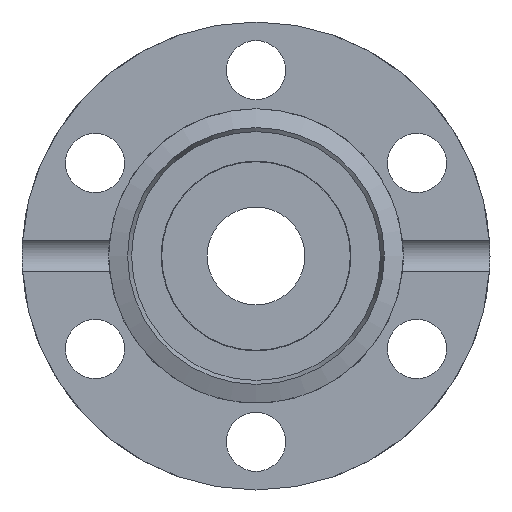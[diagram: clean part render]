
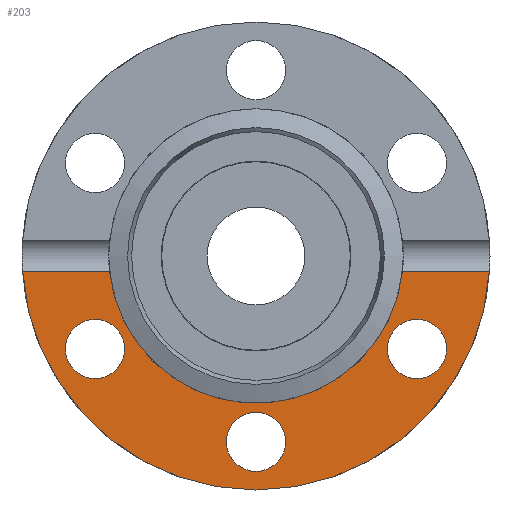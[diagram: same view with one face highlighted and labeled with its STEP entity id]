
A CAD part, left-side view. The second image highlights one B-rep face of the part: STEP entity #203.
In plain terms, the highlighted planar face has unit normal (-1, 0, 0).
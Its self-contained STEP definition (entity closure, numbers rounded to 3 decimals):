
#203 = ADVANCED_FACE( '', ( #411, #412, #413, #414 ), #415, .F. );
#411 = FACE_BOUND( '', #603, .T. );
#412 = FACE_BOUND( '', #604, .T. );
#413 = FACE_BOUND( '', #605, .T. );
#414 = FACE_OUTER_BOUND( '', #606, .T. );
#415 = PLANE( '', #607 );
#603 = EDGE_LOOP( '', ( #963 ) );
#604 = EDGE_LOOP( '', ( #964 ) );
#605 = EDGE_LOOP( '', ( #965 ) );
#606 = EDGE_LOOP( '', ( #966, #967, #968, #969 ) );
#607 = AXIS2_PLACEMENT_3D( '', #970, #971, #972 );
#963 = ORIENTED_EDGE( '', *, *, #1110, .F. );
#964 = ORIENTED_EDGE( '', *, *, #1070, .F. );
#965 = ORIENTED_EDGE( '', *, *, #1092, .F. );
#966 = ORIENTED_EDGE( '', *, *, #1082, .T. );
#967 = ORIENTED_EDGE( '', *, *, #1012, .T. );
#968 = ORIENTED_EDGE( '', *, *, #1067, .F. );
#969 = ORIENTED_EDGE( '', *, *, #1106, .T. );
#970 = CARTESIAN_POINT( '', ( -7.6, 0., 17. ) );
#971 = DIRECTION( '', ( 1., 0., 0. ) );
#972 = DIRECTION( '', ( 0., 0., -1. ) );
#1012 = EDGE_CURVE( '', #1173, #1171, #1174, .T. );
#1067 = EDGE_CURVE( '', #1253, #1171, #1255, .T. );
#1070 = EDGE_CURVE( '', #1259, #1259, #1260, .T. );
#1082 = EDGE_CURVE( '', #1275, #1173, #1276, .T. );
#1092 = EDGE_CURVE( '', #1291, #1291, #1292, .T. );
#1106 = EDGE_CURVE( '', #1253, #1275, #1308, .T. );
#1110 = EDGE_CURVE( '', #1312, #1312, #1313, .T. );
#1171 = VERTEX_POINT( '', #1393 );
#1173 = VERTEX_POINT( '', #1408 );
#1174 = LINE( '', #1409, #1410 );
#1253 = VERTEX_POINT( '', #1521 );
#1255 = CIRCLE( '', #1536, 10.7 );
#1259 = VERTEX_POINT( '', #1540 );
#1260 = CIRCLE( '', #1541, 2.15 );
#1275 = VERTEX_POINT( '', #1559 );
#1276 = CIRCLE( '', #1560, 17. );
#1291 = VERTEX_POINT( '', #1588 );
#1292 = CIRCLE( '', #1589, 2.15 );
#1308 = LINE( '', #1607, #1608 );
#1312 = VERTEX_POINT( '', #1613 );
#1313 = CIRCLE( '', #1614, 2.15 );
#1393 = CARTESIAN_POINT( '', ( -7.6, -10.641, -1.118 ) );
#1408 = CARTESIAN_POINT( '', ( -7.6, -16.963, -1.118 ) );
#1409 = CARTESIAN_POINT( '', ( -7.6, -17., -1.118 ) );
#1410 = VECTOR( '', #1652, 1000. );
#1521 = CARTESIAN_POINT( '', ( -7.6, 10.641, -1.118 ) );
#1536 = AXIS2_PLACEMENT_3D( '', #1729, #1730, #1731 );
#1540 = CARTESIAN_POINT( '', ( -7.6, -10.616, -8.612 ) );
#1541 = AXIS2_PLACEMENT_3D( '', #1735, #1736, #1737 );
#1559 = CARTESIAN_POINT( '', ( -7.6, 16.963, -1.118 ) );
#1560 = AXIS2_PLACEMENT_3D( '', #1750, #1751, #1752 );
#1588 = CARTESIAN_POINT( '', ( -7.6, 2.15, -13.5 ) );
#1589 = AXIS2_PLACEMENT_3D( '', #1768, #1769, #1770 );
#1607 = CARTESIAN_POINT( '', ( -7.6, -17., -1.118 ) );
#1608 = VECTOR( '', #1779, 1000. );
#1613 = CARTESIAN_POINT( '', ( -7.6, 12.766, -4.888 ) );
#1614 = AXIS2_PLACEMENT_3D( '', #1781, #1782, #1783 );
#1652 = DIRECTION( '', ( 0., 1., 0. ) );
#1729 = CARTESIAN_POINT( '', ( -7.6, 0., 0. ) );
#1730 = DIRECTION( '', ( -1., 0., 0. ) );
#1731 = DIRECTION( '', ( 0., 0., 1. ) );
#1735 = CARTESIAN_POINT( '', ( -7.6, -11.691, -6.75 ) );
#1736 = DIRECTION( '', ( -1., 0., 0. ) );
#1737 = DIRECTION( '', ( 0., 0.5, -0.866 ) );
#1750 = CARTESIAN_POINT( '', ( -7.6, 0., 0. ) );
#1751 = DIRECTION( '', ( -1., 0., 0. ) );
#1752 = DIRECTION( '', ( 0., 0., 1. ) );
#1768 = CARTESIAN_POINT( '', ( -7.6, 0., -13.5 ) );
#1769 = DIRECTION( '', ( -1., 0., 0. ) );
#1770 = DIRECTION( '', ( 0., 1., 0. ) );
#1779 = DIRECTION( '', ( 0., 1., 0. ) );
#1781 = CARTESIAN_POINT( '', ( -7.6, 11.691, -6.75 ) );
#1782 = DIRECTION( '', ( -1., 0., 0. ) );
#1783 = DIRECTION( '', ( 0., 0.5, 0.866 ) );
